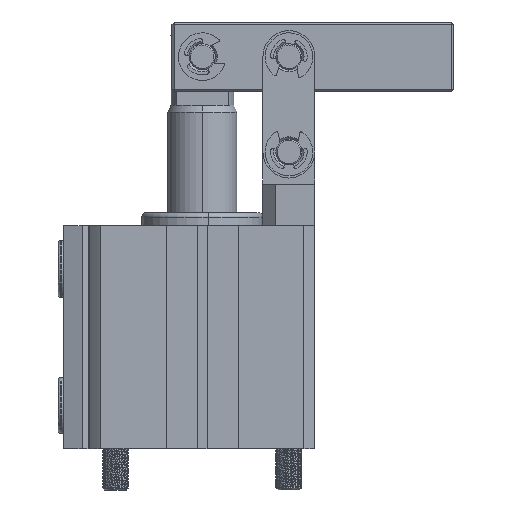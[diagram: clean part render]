
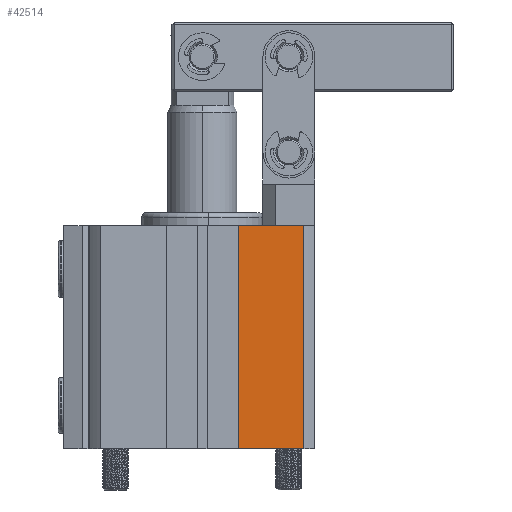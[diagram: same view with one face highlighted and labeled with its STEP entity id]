
A CAD part, front view. The second image highlights one B-rep face of the part: STEP entity #42514.
In plain terms, the highlighted planar face has unit normal (0, -1, 0).
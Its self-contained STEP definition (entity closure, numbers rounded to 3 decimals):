
#29901 = PLANE('',#29902);
#29902 = AXIS2_PLACEMENT_3D('',#29903,#29904,#29905);
#29903 = CARTESIAN_POINT('',(-2.977,-2.116,-25.75));
#29904 = DIRECTION('',(0.,0.,1.));
#29905 = DIRECTION('',(1.,0.,-0.));
#30547 = PLANE('',#30548);
#30548 = AXIS2_PLACEMENT_3D('',#30549,#30550,#30551);
#30549 = CARTESIAN_POINT('',(-4.343,-61.581,25.75));
#30550 = DIRECTION('',(-0.,0.,1.));
#30551 = DIRECTION('',(1.,0.,0.));
#38154 = VERTEX_POINT('',#38155);
#38155 = CARTESIAN_POINT('',(20.453,-28.116,-25.75));
#38172 = CYLINDRICAL_SURFACE('',#38173,35.);
#38173 = AXIS2_PLACEMENT_3D('',#38174,#38175,#38176);
#38174 = CARTESIAN_POINT('',(-2.977,-2.116,-25.75));
#38175 = DIRECTION('',(0.,0.,1.));
#38176 = DIRECTION('',(1.,0.,-0.));
#38184 = EDGE_CURVE('',#38185,#38154,#38187,.T.);
#38185 = VERTEX_POINT('',#38186);
#38186 = CARTESIAN_POINT('',(5.273,-28.116,-25.75));
#38187 = SURFACE_CURVE('',#38188,(#38192,#38199),.PCURVE_S1.);
#38188 = LINE('',#38189,#38190);
#38189 = CARTESIAN_POINT('',(20.453,-28.116,-25.75));
#38190 = VECTOR('',#38191,1.);
#38191 = DIRECTION('',(1.,-0.,-0.));
#38192 = PCURVE('',#29901,#38193);
#38193 = DEFINITIONAL_REPRESENTATION('',(#38194),#38198);
#38194 = LINE('',#38195,#38196);
#38195 = CARTESIAN_POINT('',(23.431,-26.));
#38196 = VECTOR('',#38197,1.);
#38197 = DIRECTION('',(1.,-0.));
#38198 = ( GEOMETRIC_REPRESENTATION_CONTEXT(2) 
PARAMETRIC_REPRESENTATION_CONTEXT() REPRESENTATION_CONTEXT('2D SPACE',''
  ) );
#38199 = PCURVE('',#38200,#38205);
#38200 = PLANE('',#38201);
#38201 = AXIS2_PLACEMENT_3D('',#38202,#38203,#38204);
#38202 = CARTESIAN_POINT('',(-4.343,-28.116,-25.75));
#38203 = DIRECTION('',(0.,-1.,0.));
#38204 = DIRECTION('',(0.,-0.,-1.));
#38205 = DEFINITIONAL_REPRESENTATION('',(#38206),#38210);
#38206 = LINE('',#38207,#38208);
#38207 = CARTESIAN_POINT('',(0.,24.796));
#38208 = VECTOR('',#38209,1.);
#38209 = DIRECTION('',(0.,1.));
#38210 = ( GEOMETRIC_REPRESENTATION_CONTEXT(2) 
PARAMETRIC_REPRESENTATION_CONTEXT() REPRESENTATION_CONTEXT('2D SPACE',''
  ) );
#38228 = PLANE('',#38229);
#38229 = AXIS2_PLACEMENT_3D('',#38230,#38231,#38232);
#38230 = CARTESIAN_POINT('',(5.273,-61.581,-25.75));
#38231 = DIRECTION('',(-1.,0.,0.));
#38232 = DIRECTION('',(0.,0.,1.));
#41283 = EDGE_CURVE('',#41284,#38185,#41286,.T.);
#41284 = VERTEX_POINT('',#41285);
#41285 = CARTESIAN_POINT('',(5.273,-28.116,25.75));
#41286 = SURFACE_CURVE('',#41287,(#41291,#41298),.PCURVE_S1.);
#41287 = LINE('',#41288,#41289);
#41288 = CARTESIAN_POINT('',(5.273,-28.116,-25.75));
#41289 = VECTOR('',#41290,1.);
#41290 = DIRECTION('',(0.,-0.,-1.));
#41291 = PCURVE('',#38228,#41292);
#41292 = DEFINITIONAL_REPRESENTATION('',(#41293),#41297);
#41293 = LINE('',#41294,#41295);
#41294 = CARTESIAN_POINT('',(0.,33.465));
#41295 = VECTOR('',#41296,1.);
#41296 = DIRECTION('',(-1.,0.));
#41297 = ( GEOMETRIC_REPRESENTATION_CONTEXT(2) 
PARAMETRIC_REPRESENTATION_CONTEXT() REPRESENTATION_CONTEXT('2D SPACE',''
  ) );
#41298 = PCURVE('',#38200,#41299);
#41299 = DEFINITIONAL_REPRESENTATION('',(#41300),#41304);
#41300 = LINE('',#41301,#41302);
#41301 = CARTESIAN_POINT('',(0.,9.615));
#41302 = VECTOR('',#41303,1.);
#41303 = DIRECTION('',(1.,0.));
#41304 = ( GEOMETRIC_REPRESENTATION_CONTEXT(2) 
PARAMETRIC_REPRESENTATION_CONTEXT() REPRESENTATION_CONTEXT('2D SPACE',''
  ) );
#42514 = ADVANCED_FACE('',(#42515),#38200,.T.);
#42515 = FACE_BOUND('',#42516,.T.);
#42516 = EDGE_LOOP('',(#42517,#42518,#42519,#42542));
#42517 = ORIENTED_EDGE('',*,*,#41283,.T.);
#42518 = ORIENTED_EDGE('',*,*,#38184,.T.);
#42519 = ORIENTED_EDGE('',*,*,#42520,.F.);
#42520 = EDGE_CURVE('',#42521,#38154,#42523,.T.);
#42521 = VERTEX_POINT('',#42522);
#42522 = CARTESIAN_POINT('',(20.453,-28.116,25.75));
#42523 = SURFACE_CURVE('',#42524,(#42528,#42535),.PCURVE_S1.);
#42524 = LINE('',#42525,#42526);
#42525 = CARTESIAN_POINT('',(20.453,-28.116,-25.75));
#42526 = VECTOR('',#42527,1.);
#42527 = DIRECTION('',(-0.,-0.,-1.));
#42528 = PCURVE('',#38200,#42529);
#42529 = DEFINITIONAL_REPRESENTATION('',(#42530),#42534);
#42530 = LINE('',#42531,#42532);
#42531 = CARTESIAN_POINT('',(0.,24.796));
#42532 = VECTOR('',#42533,1.);
#42533 = DIRECTION('',(1.,0.));
#42534 = ( GEOMETRIC_REPRESENTATION_CONTEXT(2) 
PARAMETRIC_REPRESENTATION_CONTEXT() REPRESENTATION_CONTEXT('2D SPACE',''
  ) );
#42535 = PCURVE('',#38172,#42536);
#42536 = DEFINITIONAL_REPRESENTATION('',(#42537),#42541);
#42537 = LINE('',#42538,#42539);
#42538 = CARTESIAN_POINT('',(5.446,0.));
#42539 = VECTOR('',#42540,1.);
#42540 = DIRECTION('',(0.,-1.));
#42541 = ( GEOMETRIC_REPRESENTATION_CONTEXT(2) 
PARAMETRIC_REPRESENTATION_CONTEXT() REPRESENTATION_CONTEXT('2D SPACE',''
  ) );
#42542 = ORIENTED_EDGE('',*,*,#42543,.F.);
#42543 = EDGE_CURVE('',#41284,#42521,#42544,.T.);
#42544 = SURFACE_CURVE('',#42545,(#42549,#42556),.PCURVE_S1.);
#42545 = LINE('',#42546,#42547);
#42546 = CARTESIAN_POINT('',(-4.343,-28.116,25.75));
#42547 = VECTOR('',#42548,1.);
#42548 = DIRECTION('',(1.,0.,0.));
#42549 = PCURVE('',#38200,#42550);
#42550 = DEFINITIONAL_REPRESENTATION('',(#42551),#42555);
#42551 = LINE('',#42552,#42553);
#42552 = CARTESIAN_POINT('',(-51.5,0.));
#42553 = VECTOR('',#42554,1.);
#42554 = DIRECTION('',(0.,1.));
#42555 = ( GEOMETRIC_REPRESENTATION_CONTEXT(2) 
PARAMETRIC_REPRESENTATION_CONTEXT() REPRESENTATION_CONTEXT('2D SPACE',''
  ) );
#42556 = PCURVE('',#30547,#42557);
#42557 = DEFINITIONAL_REPRESENTATION('',(#42558),#42562);
#42558 = LINE('',#42559,#42560);
#42559 = CARTESIAN_POINT('',(0.,33.465));
#42560 = VECTOR('',#42561,1.);
#42561 = DIRECTION('',(1.,0.));
#42562 = ( GEOMETRIC_REPRESENTATION_CONTEXT(2) 
PARAMETRIC_REPRESENTATION_CONTEXT() REPRESENTATION_CONTEXT('2D SPACE',''
  ) );
